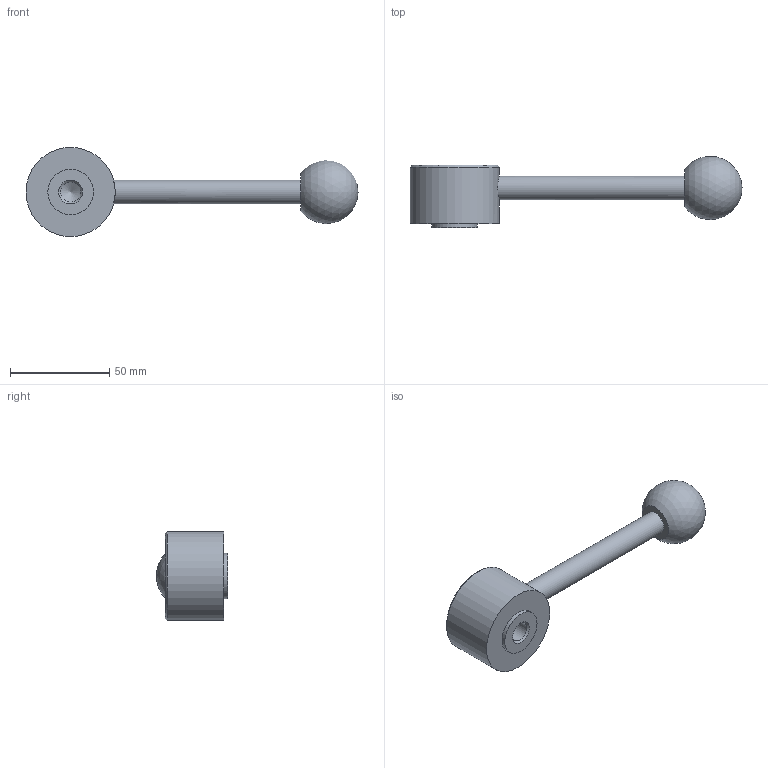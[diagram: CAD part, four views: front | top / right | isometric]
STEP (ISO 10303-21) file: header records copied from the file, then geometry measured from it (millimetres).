
FILE_DESCRIPTION( ( 'STEP AP203' ), '1' );
FILE_NAME( 'C:/Temp/Ganter_Step_05_03_2020/data/2_1/gn_125/gn_125_mb/gn_125_mb_d/Flat Adjustable Lever GN 125-45-M12-D.stp', '2020-03-05T11:00:40', ( 'License CC BY-ND 4.0' ), ( 'CADENAS' ), ' ', 'PARTsolutions', ' ' );
FILE_SCHEMA( ( 'CONFIG_CONTROL_DESIGN' ) );
Length unit declared in the file: millimetre
Products named in the file (1): _Flat Adjustable Lever GN 125-45-M12-D
Bounding box: 167.5 x 35.88 x 45 mm (x, y, z)
Volume: 72870.4 mm3; surface area: 14664.6 mm2
Topology: 1 solids, 1 shells, 14 faces, 25 edges, 16 vertices
Faces by surface type: cylinder 5, plane 5, cone 3, sphere 1
Full cylindrical faces by diameter (mm): 10.106 x1, 12 x1, 23 x1, 32 x1, 45 x1
Entity records: 406 total; most frequent: CARTESIAN_POINT 126, DIRECTION 54, AXIS2_PLACEMENT_3D 27, EDGE_LOOP 26, ORIENTED_EDGE 26, FACE_OUTER_BOUND 19, VERTEX_POINT 15, ADVANCED_FACE 14
